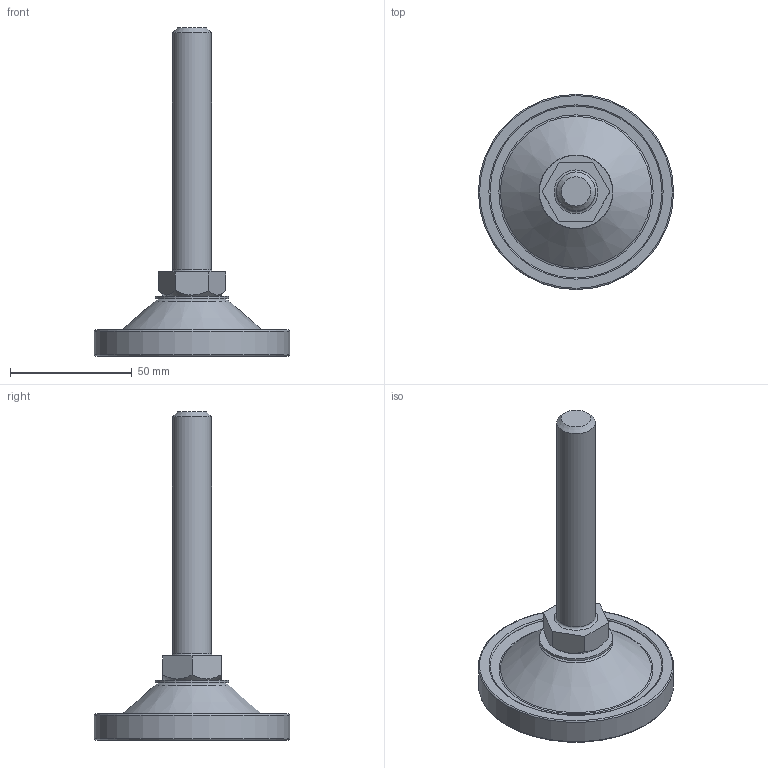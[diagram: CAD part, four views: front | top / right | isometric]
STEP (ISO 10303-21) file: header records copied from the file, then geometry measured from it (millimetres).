
FILE_DESCRIPTION(/* description */ (''),/* implementation_level */ '2;1');
FILE_NAME(/* name */ 'D:\조절자\PFR\PFR-M16-100L.stp',/* time_stamp */ '2016-03-14T15:07:16+09:00',/* author */ ('GS-DT-1-001'),/* organization */ (''),/* preprocessor_version */ 'ST-DEVELOPER v15.6',/* originating_system */ 'Autodesk Inventor LT ',/* authorisation */ '');
FILE_SCHEMA (('AUTOMOTIVE_DESIGN { 1 0 10303 214 3 1 1 }'));
Length unit declared in the file: millimetre
Products named in the file (1): PFR-M16-100L
Bounding box: 80 x 80 x 134.5 mm (x, y, z)
Volume: 71418.8 mm3; surface area: 34888.7 mm2
Topology: 5 solids, 5 shells, 76 faces, 137 edges, 83 vertices
Faces by surface type: plane 28, torus 24, cone 14, cylinder 10
Full cylindrical faces by diameter (mm): 6.912 x1, 8 x1, 8.2 x1, 8.3 x1, 16 x2, 30 x1, 74 x1, 74.4 x1, 80 x1
Entity records: 1584 total; most frequent: DIRECTION 298, CARTESIAN_POINT 251, ORIENTED_EDGE 168, AXIS2_PLACEMENT_3D 143, EDGE_LOOP 140, EDGE_CURVE 84, VERTEX_POINT 78, FACE_OUTER_BOUND 76
